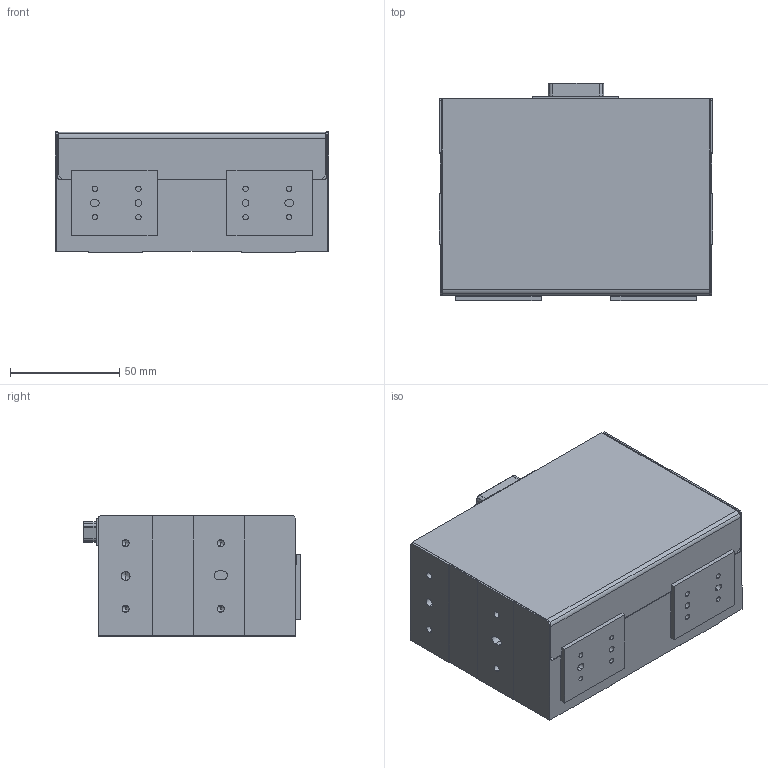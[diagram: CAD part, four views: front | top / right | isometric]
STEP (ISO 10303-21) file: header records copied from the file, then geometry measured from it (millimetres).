
FILE_DESCRIPTION((''),'2;1');
FILE_NAME('GRP50-030-7_A.stp','2005-10-07T10:56:04',(''),(''),'Mechanical Desktop 2005','Mechanical Desktop 2005',', , ');
FILE_SCHEMA(('CONFIG_CONTROL_DESIGN'));
Length unit declared in the file: millimetre
Products named in the file (3): GRP50-030-7_A; ~BODY-2; DB26-3Ddwg
Assembly tree (2 placements, depth 2):
  GRP50-030-7_A
    ~BODY-2
    DB26-3Ddwg
Bounding box: 125 x 99.3 x 55 mm (x, y, z)
Volume: 616055.7 mm3; surface area: 58696.3 mm2
Topology: 2 solids, 2 shells, 433 faces, 1022 edges, 648 vertices
Faces by surface type: cylinder 207, plane 165, cone 40, bspline 21
Entity records: 12561 total; most frequent: CARTESIAN_POINT 2297, DIRECTION 2250, ORIENTED_EDGE 1964, EDGE_CURVE 982, AXIS2_PLACEMENT_3D 853, VERTEX_POINT 648, VECTOR 544, LINE 544
